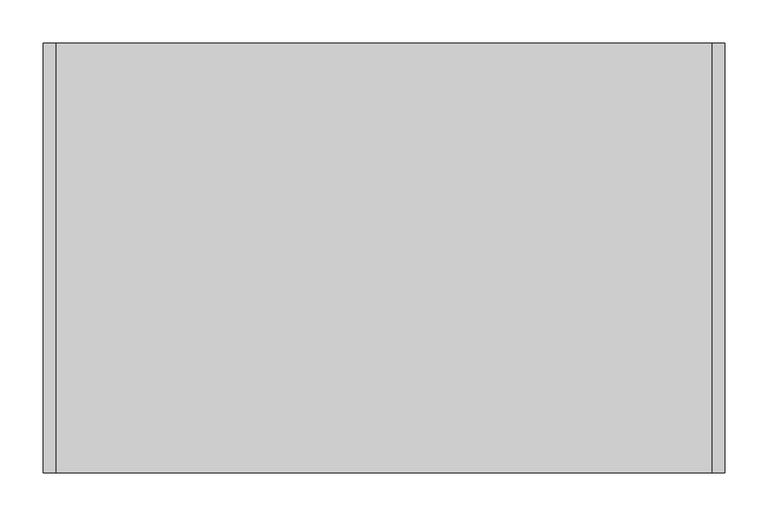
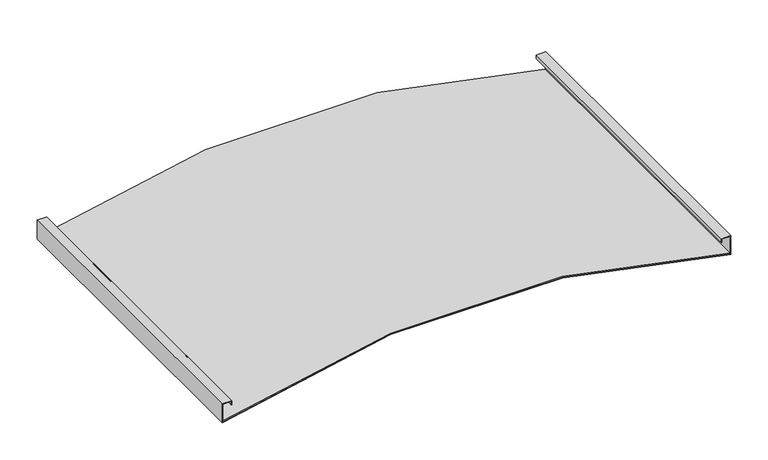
"""IFC4 building model written with IfcOpenShell, lengths in millimetres: proxy geometry, durlum_S7_DOMUS_ALT_panel : durlum_S7_DOMUS_panel."""

from ifc_helpers import new_model, si_unit, point, frame, frame_2d, origin, place, context, project, spatial, polyline, circle_curve, trimmed, segment, composite_curve, outline, extrude, source, transform, mapped, element, save


def generic_models_41f043e1(model_context):
    return source(origin(), model_context, "Body", "SweptSolid", [
        extrude(outline(composite_curve([segment(trimmed(circle_curve(frame_2d((-1276.8, 0.0)), 1337.8), [point((1.3564224, -395.0))], [point((1.3564224, 395.0))], True, "CARTESIAN"), True, "CONTINUOUS"), segment(polyline([(1.3564224, 395.0), (2.4030488, 395.0)]), True, "CONTINUOUS"), segment(trimmed(circle_curve(frame_2d((-1276.8, 0.0)), 1338.8), [point((2.4030488, 395.0))], [point((2.4030488, -395.0))], False, "CARTESIAN"), True, "CONTINUOUS"), segment(polyline([(2.4030488, -395.0), (1.3564224, -395.0)]), True, "CONTINUOUS")], self_intersect=False)), frame((0.0, -249.75, 0.0), z_axis=(0.0, 1.0, 0.0), x_axis=(0.0, 0.0, 1.0)), (0.0, 0.0, 1.0), 499.5),
        extrude(outline(polyline([(31.0, -396.0), (0.0, -396.0), (0.0, -395.0), (30.0, -395.0), (30.0, -382.0), (24.5, -382.0), (24.5, -381.0), (31.0, -381.0), (31.0, -396.0)])), frame((0.0, -249.75, 0.0), z_axis=(0.0, 1.0, 0.0), x_axis=(0.0, 0.0, 1.0)), (0.0, 0.0, 1.0), 499.5),
        extrude(outline(polyline([(31.0, 396.0), (31.0, 381.0), (24.5, 381.0), (24.5, 382.0), (30.0, 382.0), (30.0, 395.0), (0.0, 395.0), (0.0, 396.0), (31.0, 396.0)])), frame((0.0, -249.75, 0.0), z_axis=(0.0, 1.0, 0.0), x_axis=(0.0, 0.0, 1.0)), (0.0, 0.0, 1.0), 499.5),
        extrude(outline(composite_curve([segment(polyline([(1.0469548, -396.0), (0.0, -396.0)]), True, "CONTINUOUS"), segment(trimmed(circle_curve(frame_2d((-1276.8, 0.0)), 1336.8), [point((0.0, -396.0))], [point((0.0, 396.0))], True, "CARTESIAN"), True, "CONTINUOUS"), segment(polyline([(0.0, 396.0), (1.0469548, 396.0)]), True, "CONTINUOUS"), segment(trimmed(circle_curve(frame_2d((-1276.8, 0.0)), 1337.8), [point((1.0469548, 396.0))], [point((1.0469548, -396.0))], False, "CARTESIAN"), True, "CONTINUOUS")], self_intersect=False)), frame((0.0, -249.75, 0.0), z_axis=(0.0, 1.0, 0.0), x_axis=(0.0, 0.0, 1.0)), (0.0, 0.0, 1.0), 499.5),
    ])


if __name__ == "__main__":
    model = new_model("IFC4")
    model_context = context("Model", 3, world=origin())
    ifc_project = project(units=[si_unit("LENGTHUNIT", "METRE", prefix="MILLI")], contexts=[model_context])
    site = spatial("IfcSite", under=ifc_project)
    building = spatial("IfcBuilding", under=site)
    placement = place(None, origin())
    generic_models_shape = generic_models_41f043e1(model_context)
    element("IfcBuildingElementProxy", 1, Name="durlum_S7_DOMUS_ALT_panel : durlum_S7_DOMUS_panel", ObjectType="durlum_S7_DOMUS_ALT_panel : durlum_S7_DOMUS_panel", at=placement, inside=building, context=model_context, shape_type="MappedRepresentation", body=[
        mapped(generic_models_shape, transform((0.0, 0.0, 0.0), x_axis=(1.0, 0.0, 0.0), y_axis=(0.0, 1.0, 0.0), z_axis=(0.0, 0.0, 1.0))),
    ])
    save(model, "model.ifc")
